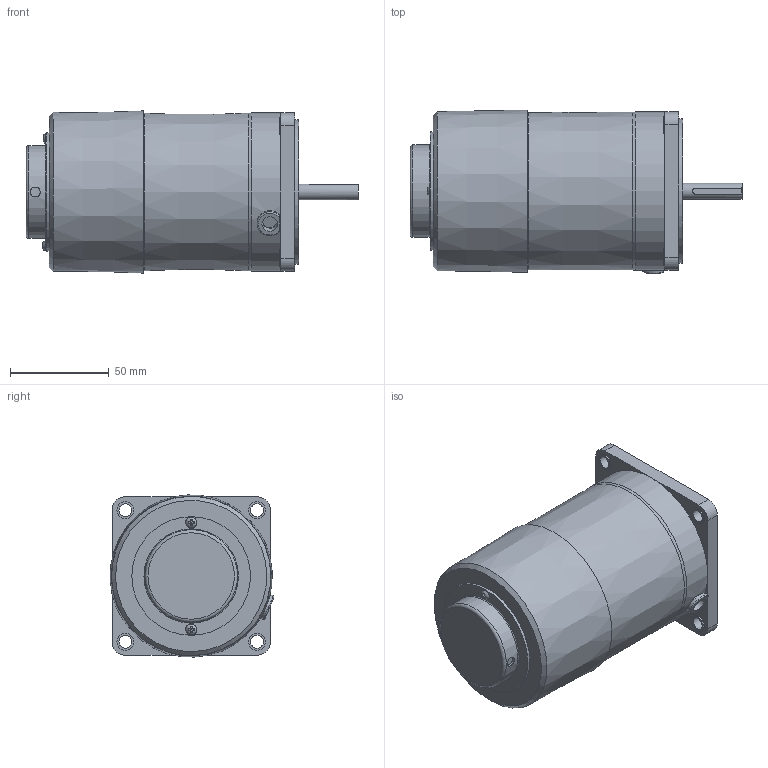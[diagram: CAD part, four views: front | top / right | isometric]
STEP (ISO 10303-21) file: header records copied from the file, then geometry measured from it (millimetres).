
FILE_DESCRIPTION(/* description */ (''),/* implementation_level */ '2;1');
FILE_NAME(/* name */ 'Y:\제품연구개발\3. 도면\3. 고객배포용\3D_홈페이지용\01-1 Standard AC SG Series\05-3 SPEED CONTROL ELECTROMAGNETIC BRAKE MOTOR(ES)\SG8R25_-ES12\SG8R25K-ES.stp',/* time_stamp */ '2023-11-29T14:36:52+09:00',/* author */ ('shyi1037'),/* organization */ (''),/* preprocessor_version */ 'ST-DEVELOPER v18.1',/* originating_system */ 'Autodesk Inventor 2022',/* authorisation */ '');
FILE_SCHEMA (('AUTOMOTIVE_DESIGN { 1 0 10303 214 3 1 1 }'));
Length unit declared in the file: millimetre
Products named in the file (1): SG8R25K-ES
Bounding box: 167.7 x 82.76 x 81.94 mm (x, y, z)
Volume: 654311.7 mm3; surface area: 51374 mm2
Topology: 1 solids, 6 shells, 152 faces, 353 edges, 231 vertices
Faces by surface type: plane 94, cylinder 44, torus 8, cone 3, bspline 3
Full cylindrical faces by diameter (mm): 3 x2, 3.5 x2, 5 x1, 5.6 x2, 6.5 x4, 8 x2, 8.5 x4, 34 x1, 44.7 x1, 46.7 x1, 47.7 x1, 59.9 x1, 73 x1, 78 x1, 80 x1
Entity records: 4780 total; most frequent: CARTESIAN_POINT 1170, DIRECTION 732, ORIENTED_EDGE 706, EDGE_CURVE 353, AXIS2_PLACEMENT_3D 267, VERTEX_POINT 231, LINE 198, VECTOR 198
